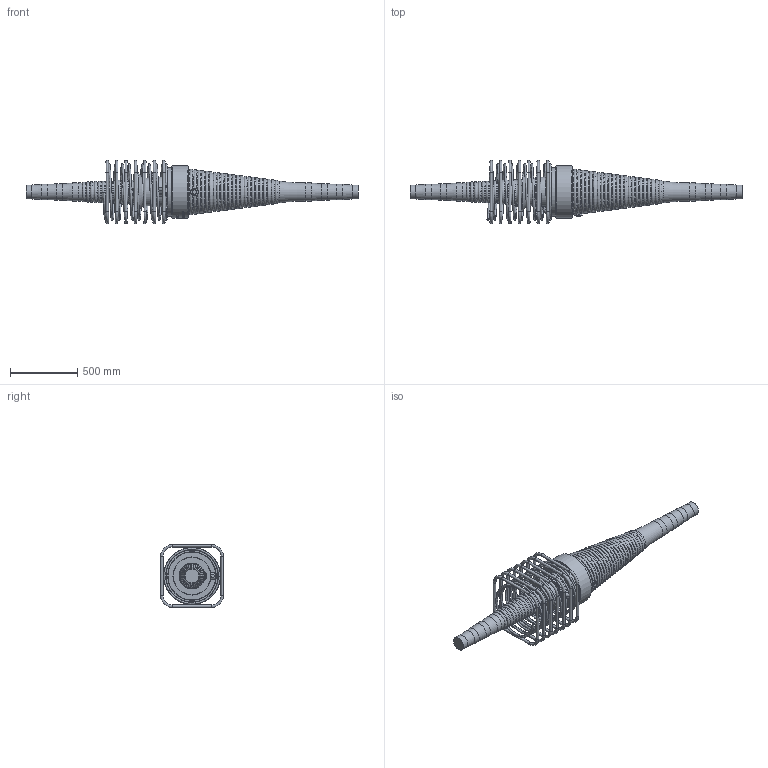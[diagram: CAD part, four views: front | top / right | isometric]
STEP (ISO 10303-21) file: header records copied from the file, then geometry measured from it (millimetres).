
FILE_DESCRIPTION(/* description */ (''),/* implementation_level */ '2;1');
FILE_NAME(/* name */ 'BBR VT CONA CMI BT 2506_Coupler K Assembly_CS-34,28.stp',/* time_stamp */ '2025-05-22T08:47:57+02:00',/* author */ ('tk'),/* organization */ (''),/* preprocessor_version */ 'ST-DEVELOPER v20',/* originating_system */ 'Autodesk Inventor 2024',/* authorisation */ '');
FILE_SCHEMA (('AUTOMOTIVE_DESIGN { 1 0 10303 214 3 1 1 }'));
Products named in the file (1): BBR VT CONA CMI BT 2506_Coupler K Assembly_CS-34,28
Bounding box: 2468.22 x 470 x 470 mm (x, y, z)
Volume: 89168498.4 mm3; surface area: 3088169.6 mm2
Topology: 9 solids, 9 shells, 1024 faces, 2649 edges, 1694 vertices
Faces by surface type: bspline 377, plane 306, torus 170, cylinder 120, cone 41, sphere 10
Full cylindrical faces by diameter (mm): 20 x28, 34 x1, 34.089 x1, 57 x1, 57.089 x1, 104 x2, 114 x2, 124 x2, 134 x2, 208 x1, 279 x1, 283 x1, 360 x1, 375 x1, 386 x1, 390 x1
Entity records: 46003 total; most frequent: CARTESIAN_POINT 22410, ORIENTED_EDGE 5286, DIRECTION 4077, EDGE_CURVE 2643, VERTEX_POINT 1694, AXIS2_PLACEMENT_3D 1553, EDGE_LOOP 1097, FACE_OUTER_BOUND 1024
